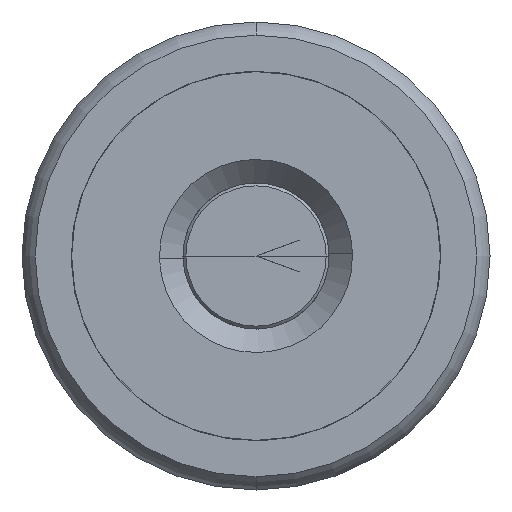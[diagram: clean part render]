
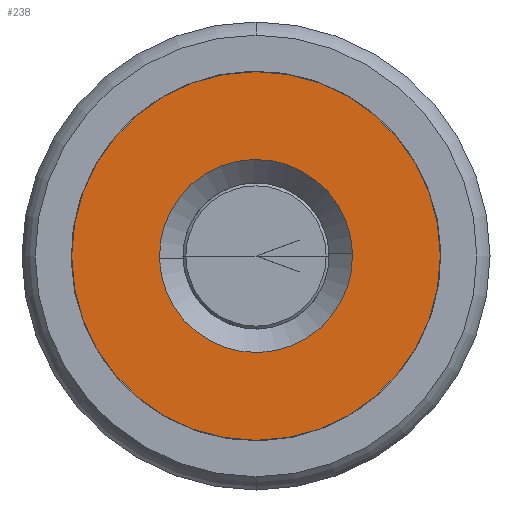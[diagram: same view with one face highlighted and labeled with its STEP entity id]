
A CAD part, front view. The second image highlights one B-rep face of the part: STEP entity #238.
In plain terms, the highlighted planar face has unit normal (0, -1, 0) as drawn and (-1, 0, 0) by its records, which use the part's own axes.
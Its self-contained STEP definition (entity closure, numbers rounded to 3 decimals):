
#22 = CARTESIAN_POINT ( 'NONE',  ( 0.374, -0.825, 0. ) ) ;
#90 = FACE_BOUND ( 'NONE', #3305, .T. ) ;
#229 = CARTESIAN_POINT ( 'NONE',  ( 0.374, 0., 0. ) ) ;
#238 = ADVANCED_FACE ( 'NONE', ( #90, #344 ), #5239, .F. ) ;
#290 = CARTESIAN_POINT ( 'NONE',  ( 0.374, 1.735, -10. ) ) ;
#344 = FACE_OUTER_BOUND ( 'NONE', #2169, .T. ) ;
#354 = ORIENTED_EDGE ( 'NONE', *, *, #2487, .T. ) ;
#433 = DIRECTION ( 'NONE',  ( 0., 1., 0. ) ) ;
#455 = AXIS2_PLACEMENT_3D ( 'NONE', #4531, #3345, #433 ) ;
#560 = VERTEX_POINT ( 'NONE', #1356 ) ;
#730 = VERTEX_POINT ( 'NONE', #4581 ) ;
#1034 = DIRECTION ( 'NONE',  ( 1., 0., 0. ) ) ;
#1082 = AXIS2_PLACEMENT_3D ( 'NONE', #5164, #4363, #2276 ) ;
#1125 = AXIS2_PLACEMENT_3D ( 'NONE', #3505, #1863, #5204 ) ;
#1356 = CARTESIAN_POINT ( 'NONE',  ( 0.374, 0., 1.58 ) ) ;
#1406 = DIRECTION ( 'NONE',  ( 1., 0., 0. ) ) ;
#1603 = AXIS2_PLACEMENT_3D ( 'NONE', #290, #1034, #3552 ) ;
#1648 = CARTESIAN_POINT ( 'NONE',  ( 0.374, 0., -1.58 ) ) ;
#1729 = VERTEX_POINT ( 'NONE', #1648 ) ;
#1863 = DIRECTION ( 'NONE',  ( 1., 0., 0. ) ) ;
#1870 = CIRCLE ( 'NONE', #455, 1.58 ) ;
#2169 = EDGE_LOOP ( 'NONE', ( #3725, #3370 ) ) ;
#2276 = DIRECTION ( 'NONE',  ( 0., 1., 0. ) ) ;
#2487 = EDGE_CURVE ( 'NONE', #3007, #730, #3638, .T. ) ;
#2566 = EDGE_CURVE ( 'NONE', #730, #3007, #4920, .T. ) ;
#2592 = CIRCLE ( 'NONE', #1125, 1.58 ) ;
#2715 = DIRECTION ( 'NONE',  ( 0., 1., 0. ) ) ;
#3007 = VERTEX_POINT ( 'NONE', #22 ) ;
#3305 = EDGE_LOOP ( 'NONE', ( #354, #4921 ) ) ;
#3345 = DIRECTION ( 'NONE',  ( 1., 0., 0. ) ) ;
#3370 = ORIENTED_EDGE ( 'NONE', *, *, #4867, .F. ) ;
#3505 = CARTESIAN_POINT ( 'NONE',  ( 0.374, 0., 0. ) ) ;
#3552 = DIRECTION ( 'NONE',  ( 0., 1., 0. ) ) ;
#3638 = CIRCLE ( 'NONE', #1082, 0.825 ) ;
#3725 = ORIENTED_EDGE ( 'NONE', *, *, #4016, .F. ) ;
#4016 = EDGE_CURVE ( 'NONE', #560, #1729, #2592, .T. ) ;
#4140 = AXIS2_PLACEMENT_3D ( 'NONE', #229, #1406, #2715 ) ;
#4363 = DIRECTION ( 'NONE',  ( 1., 0., 0. ) ) ;
#4531 = CARTESIAN_POINT ( 'NONE',  ( 0.374, 0., 0. ) ) ;
#4581 = CARTESIAN_POINT ( 'NONE',  ( 0.374, 0.825, 0. ) ) ;
#4867 = EDGE_CURVE ( 'NONE', #1729, #560, #1870, .T. ) ;
#4920 = CIRCLE ( 'NONE', #4140, 0.825 ) ;
#4921 = ORIENTED_EDGE ( 'NONE', *, *, #2566, .T. ) ;
#5164 = CARTESIAN_POINT ( 'NONE',  ( 0.374, 0., 0. ) ) ;
#5204 = DIRECTION ( 'NONE',  ( 0., 1., 0. ) ) ;
#5239 = PLANE ( 'NONE',  #1603 ) ;
